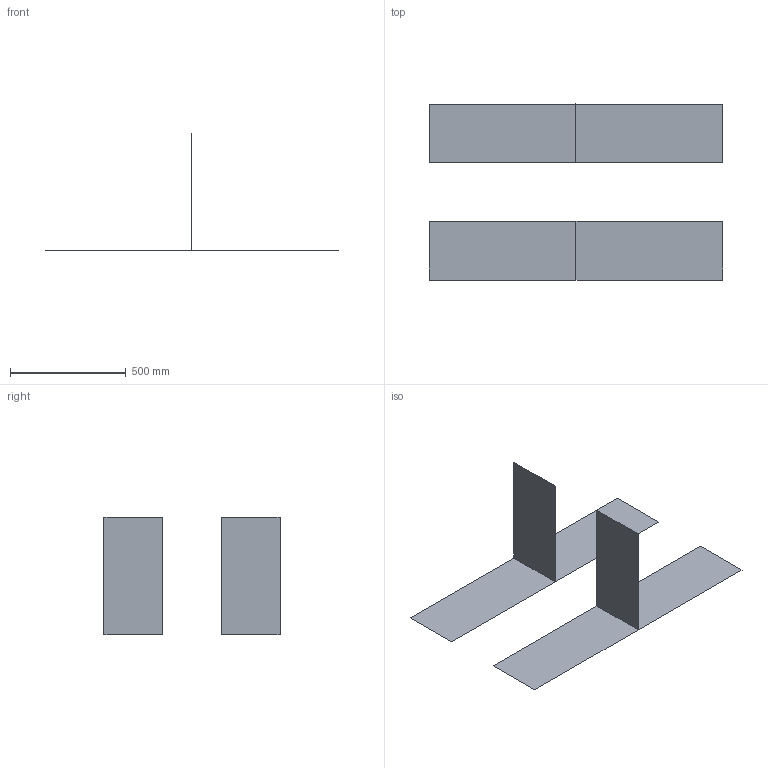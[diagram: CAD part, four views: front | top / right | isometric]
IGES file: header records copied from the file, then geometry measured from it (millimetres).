
Global section: file name: C:\Users\p925447\Documents\Doc\Forced_Mesh.igs; native system: CT CoreTechnologie 3D Evolution; preprocessor: 2006; date: 1190505.162456; units: millimetre
Bounding box: 1270 x 762 x 508 mm (x, y, z)
Surface area: 903224 mm2 (no closed solid volume)
Topology: 5 solids, 5 shells, 5 faces, 20 edges, 20 vertices
Faces by surface type: plane 5
